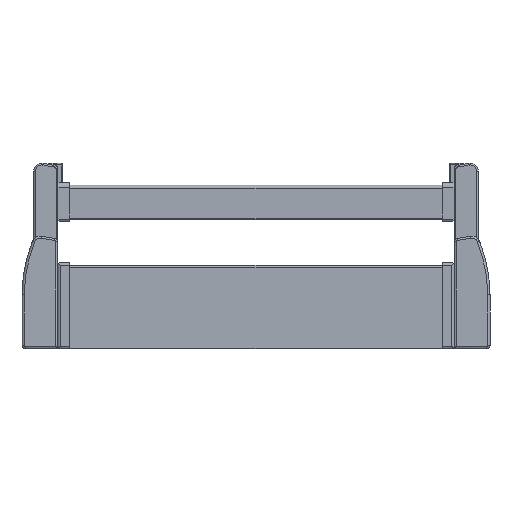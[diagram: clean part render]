
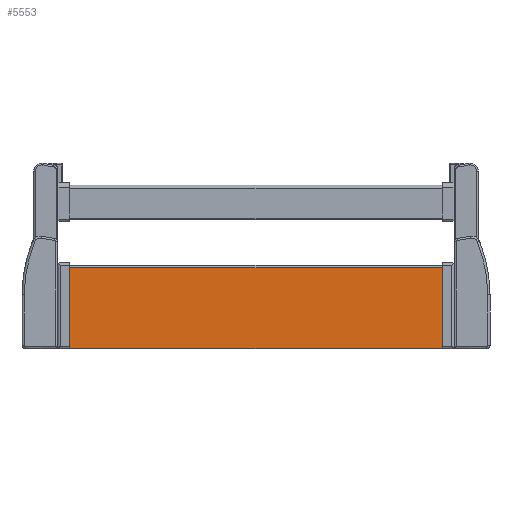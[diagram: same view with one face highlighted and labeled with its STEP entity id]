
A CAD part, top view. The second image highlights one B-rep face of the part: STEP entity #5553.
In plain terms, the highlighted planar face has unit normal (0, 0, 1).
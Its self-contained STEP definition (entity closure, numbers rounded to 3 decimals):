
#423 = VERTEX_POINT ( 'NONE', #1775 ) ;
#439 = EDGE_CURVE ( 'NONE', #440, #423, #1812, .T. ) ;
#440 = VERTEX_POINT ( 'NONE', #1808 ) ;
#1775 = CARTESIAN_POINT ( 'NONE',  ( 160.8, -23., 1.4 ) ) ;
#1808 = CARTESIAN_POINT ( 'NONE',  ( 160.8, -92.5, 1.4 ) ) ;
#1809 = DIRECTION ( 'NONE',  ( 0., 1., 0. ) ) ;
#1810 = VECTOR ( 'NONE', #1809, 1000. ) ;
#1811 = CARTESIAN_POINT ( 'NONE',  ( 160.8, -92.5, 1.4 ) ) ;
#1812 = LINE ( 'NONE', #1811, #1810 ) ;
#4134 = DIRECTION ( 'NONE',  ( -1., 0., 0. ) ) ;
#4135 = VECTOR ( 'NONE', #4134, 1000. ) ;
#4136 = CARTESIAN_POINT ( 'NONE',  ( 234.556, -92.5, 1.4 ) ) ;
#4137 = LINE ( 'NONE', #4136, #4135 ) ;
#4167 = CARTESIAN_POINT ( 'NONE',  ( -160.8, -92.5, 1.4 ) ) ;
#4292 = DIRECTION ( 'NONE',  ( 0., 1., 0. ) ) ;
#4293 = DIRECTION ( 'NONE',  ( 0., 0., -1. ) ) ;
#4294 = CARTESIAN_POINT ( 'NONE',  ( 234.556, -92.5, 1.4 ) ) ;
#4295 = AXIS2_PLACEMENT_3D ( 'NONE', #4294, #4293, #4292 ) ;
#4296 = PLANE ( 'NONE',  #4295 ) ;
#4297 = FACE_OUTER_BOUND ( 'NONE', #5546, .T. ) ;
#5479 = EDGE_CURVE ( 'NONE', #440, #5496, #4137, .T. ) ;
#5496 = VERTEX_POINT ( 'NONE', #4167 ) ;
#5546 = EDGE_LOOP ( 'NONE', ( #6000, #5996, #5980, #5992 ) ) ;
#5553 = ADVANCED_FACE ( 'NONE', ( #4297 ), #4296, .F. ) ;
#5976 = VERTEX_POINT ( 'NONE', #6365 ) ;
#5980 = ORIENTED_EDGE ( 'NONE', *, *, #5999, .T. ) ;
#5991 = EDGE_CURVE ( 'NONE', #5496, #5976, #6388, .T. ) ;
#5992 = ORIENTED_EDGE ( 'NONE', *, *, #5991, .F. ) ;
#5996 = ORIENTED_EDGE ( 'NONE', *, *, #439, .T. ) ;
#5999 = EDGE_CURVE ( 'NONE', #423, #5976, #6373, .T. ) ;
#6000 = ORIENTED_EDGE ( 'NONE', *, *, #5479, .F. ) ;
#6365 = CARTESIAN_POINT ( 'NONE',  ( -160.8, -23., 1.4 ) ) ;
#6370 = DIRECTION ( 'NONE',  ( -1., 0., 0. ) ) ;
#6371 = VECTOR ( 'NONE', #6370, 1000. ) ;
#6372 = CARTESIAN_POINT ( 'NONE',  ( 234.556, -23., 1.4 ) ) ;
#6373 = LINE ( 'NONE', #6372, #6371 ) ;
#6383 = DIRECTION ( 'NONE',  ( 0., 1., 0. ) ) ;
#6384 = VECTOR ( 'NONE', #6383, 1000. ) ;
#6385 = CARTESIAN_POINT ( 'NONE',  ( -160.8, -92.5, 1.4 ) ) ;
#6388 = LINE ( 'NONE', #6385, #6384 ) ;
